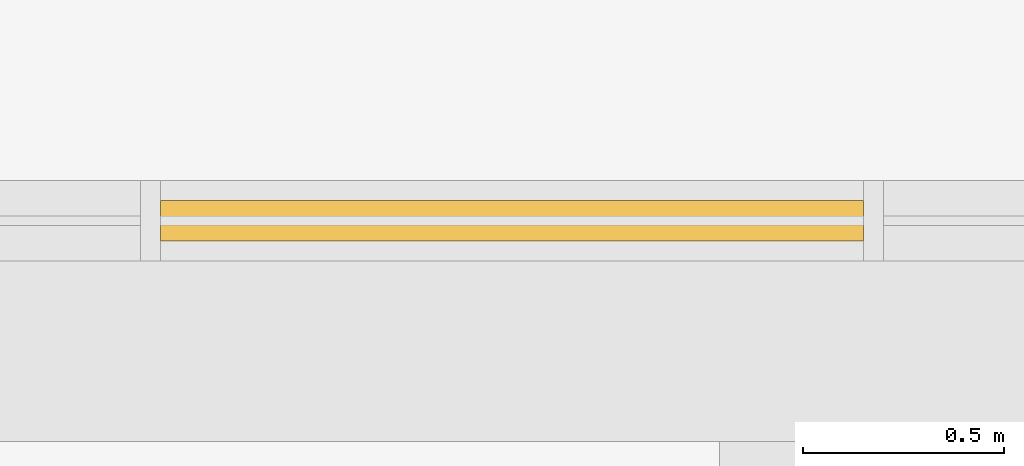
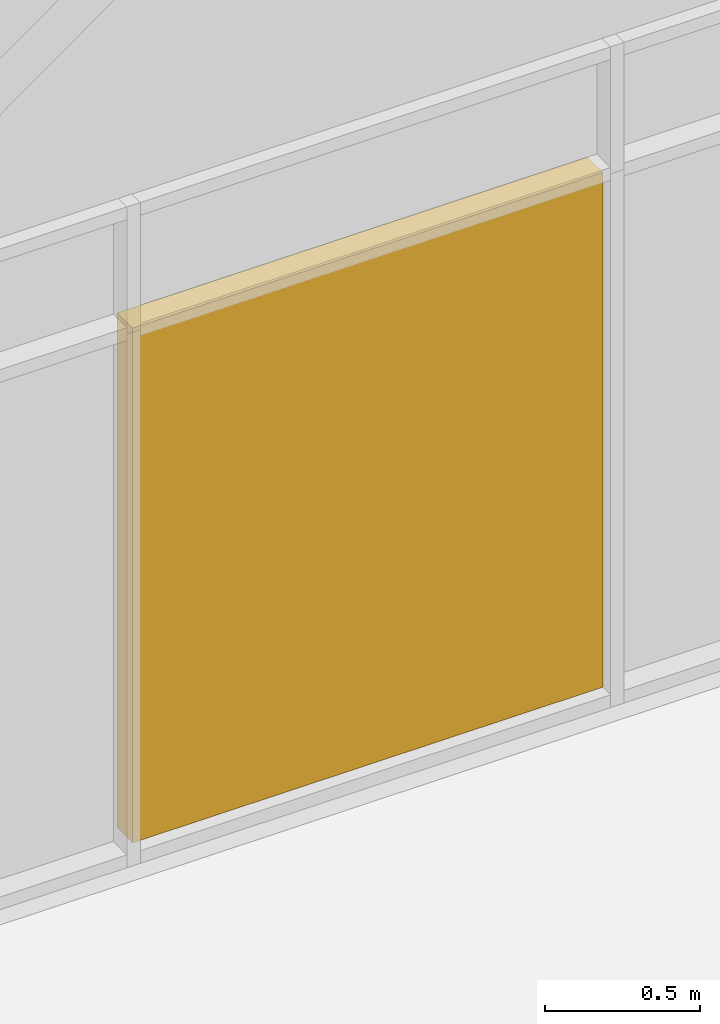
# One storey, part 27 of 29: 1 curtain wall, 1 element without a shape of its own.
"""IFC2X3 building model written with IfcOpenShell, lengths in millimetres."""

from ifc_helpers import new_model, entity, si_unit, converted_unit, derived_unit, direction, frame, frame_2d, origin, place, context, subcontext, project, spatial, rectangle, extrude, material, layer, layer_set, layer_usage, type_object, element, aggregate, save


model = new_model("IFC2X3")

# Units and contexts
model_context = context("Model", 3, precision=0.01, world=origin(), true_north=direction((6.123031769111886e-17, 1.0)))
body_context = subcontext(model_context, "Body", "Model", "MODEL_VIEW")
ifc_project = project(units=[si_unit("LENGTHUNIT", "METRE", prefix="MILLI"), si_unit("AREAUNIT", "SQUARE_METRE"), si_unit("VOLUMEUNIT", "CUBIC_METRE"), converted_unit("PLANEANGLEUNIT", "DEGREE", entity("IfcRatioMeasure", 0.017453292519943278), si_unit("PLANEANGLEUNIT", "RADIAN"), dimensions=[0, 0, 0, 0, 0, 0, 0]), si_unit("MASSUNIT", "GRAM", prefix="KILO"), derived_unit("MASSDENSITYUNIT", [(si_unit("MASSUNIT", "GRAM", prefix="KILO"), 1), (si_unit("LENGTHUNIT", "METRE"), -3)]), derived_unit("MOMENTOFINERTIAUNIT", [(si_unit("LENGTHUNIT", "METRE"), 4)]), si_unit("TIMEUNIT", "SECOND"), si_unit("FREQUENCYUNIT", "HERTZ"), si_unit("THERMODYNAMICTEMPERATUREUNIT", "DEGREE_CELSIUS"), derived_unit("THERMALTRANSMITTANCEUNIT", [(si_unit("MASSUNIT", "GRAM", prefix="KILO"), 1), (si_unit("THERMODYNAMICTEMPERATUREUNIT", "KELVIN"), -1), (si_unit("TIMEUNIT", "SECOND"), -3)]), derived_unit("VOLUMETRICFLOWRATEUNIT", [(si_unit("LENGTHUNIT", "METRE"), 3), (si_unit("TIMEUNIT", "SECOND"), -1)]), derived_unit("MASSFLOWRATEUNIT", [(si_unit("MASSUNIT", "GRAM", prefix="KILO"), 1), (si_unit("TIMEUNIT", "SECOND"), -1)]), derived_unit("ROTATIONALFREQUENCYUNIT", [(si_unit("TIMEUNIT", "SECOND"), -1)]), si_unit("ELECTRICCURRENTUNIT", "AMPERE"), si_unit("ELECTRICVOLTAGEUNIT", "VOLT"), si_unit("POWERUNIT", "WATT"), si_unit("FORCEUNIT", "NEWTON", prefix="KILO"), si_unit("ILLUMINANCEUNIT", "LUX"), si_unit("LUMINOUSFLUXUNIT", "LUMEN"), si_unit("LUMINOUSINTENSITYUNIT", "CANDELA"), derived_unit("USERDEFINED", [(si_unit("MASSUNIT", "GRAM", prefix="KILO"), -1), (si_unit("LENGTHUNIT", "METRE"), -2), (si_unit("TIMEUNIT", "SECOND"), 3), (si_unit("LUMINOUSFLUXUNIT", "LUMEN"), 1)]), derived_unit("SOUNDPOWERUNIT", [(si_unit("MASSUNIT", "GRAM", prefix="KILO"), 1), (si_unit("LENGTHUNIT", "METRE"), 2), (si_unit("TIMEUNIT", "SECOND"), -3)]), derived_unit("SOUNDPRESSUREUNIT", [(si_unit("MASSUNIT", "GRAM", prefix="KILO"), 1), (si_unit("LENGTHUNIT", "METRE"), -1), (si_unit("TIMEUNIT", "SECOND"), -2)]), derived_unit("LINEARVELOCITYUNIT", [(si_unit("LENGTHUNIT", "METRE"), 1), (si_unit("TIMEUNIT", "SECOND"), -1)]), si_unit("PRESSUREUNIT", "PASCAL"), derived_unit("USERDEFINED", [(si_unit("LENGTHUNIT", "METRE"), -2), (si_unit("MASSUNIT", "GRAM", prefix="KILO"), 1), (si_unit("TIMEUNIT", "SECOND"), -2)]), derived_unit("LINEARFORCEUNIT", [(si_unit("MASSUNIT", "GRAM", prefix="KILO"), 1), (si_unit("LENGTHUNIT", "METRE"), 1), (si_unit("TIMEUNIT", "SECOND"), -2), (si_unit("LENGTHUNIT", "METRE"), -1)]), derived_unit("PLANARFORCEUNIT", [(si_unit("MASSUNIT", "GRAM", prefix="KILO"), 1), (si_unit("LENGTHUNIT", "METRE"), 1), (si_unit("TIMEUNIT", "SECOND"), -2), (si_unit("LENGTHUNIT", "METRE"), -2)])], contexts=[model_context])

# Site, building, storey
site_placement = place(None, frame((-14167.972527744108, -657.2125860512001, 0.0)))
site = spatial("IfcSite", under=ifc_project, at=site_placement, Name="Default", CompositionType="ELEMENT")
building_placement = place(site_placement, origin())
building = spatial("IfcBuilding", under=site, at=building_placement, Name="Sample Building", CompositionType="ELEMENT")
storey_placement = place(building_placement, frame((0.0, 0.0, -6100.0)))
storey = spatial("IfcBuildingStorey", under=building, at=storey_placement, Name="지하1층", CompositionType="ELEMENT", Elevation=-6099.999999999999)

# Curtain walls
curtain_wall_type_1 = type_object("IfcCurtainWallType", Name="커튼월:CW112-스테인리스 스틸 커튼월", PredefinedType="NOTDEFINED")
curtain_wall_1_placement = place(storey_placement, frame((0.0, 0.0, 6100.0)))
curtain_wall_1 = element("IfcCurtainWall", 1, at=curtain_wall_1_placement, inside=storey, type_object=curtain_wall_type_1, Name="커튼월:CW112-스테인리스 스틸 커튼월", ObjectType="커튼월:CW112-스테인리스 스틸 커튼월")
ifc_material = material(Name="KBIMS-콘크리트")
ifc_layer = layer(ifc_material, 100.0)
ifc_layer_set = layer_set([ifc_layer], Name="커튼월:CW112-스테인리스 스틸 커튼월")
ifc_layer_usage = layer_usage(ifc_layer_set, "AXIS2", "NEGATIVE", 50.0)
curtain_wall_type_2 = type_object("IfcCurtainWallType", Name="기본 벽:WA111-철근콘크리트구조 벽 100mm", PredefinedType="NOTDEFINED", material=ifc_layer_set)
curtain_wall_2_placement = place(storey_placement, frame((32142.97249113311, 12957.212586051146, 250.0)))
curtain_wall_2 = element("IfcCurtainWall", 2, at=curtain_wall_2_placement, type_object=curtain_wall_type_2, material=ifc_layer_usage, Name="기본 벽:WA111-철근콘크리트구조 벽 100mm", ObjectType="기본 벽:WA111-철근콘크리트구조 벽 100mm", context=body_context, shape_type="SweptSolid", body=[
    extrude(rectangle(XDim=1750.0000000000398, YDim=100.00000000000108, at=frame_2d((875.0000000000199, -1.3287149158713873e-12), x_axis=(-1.0, 0.0))), origin(), (0.0, 0.0, 1.0), 2024.9999999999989),
])
aggregate(curtain_wall_1, [curtain_wall_2])

save(model, "model.ifc")
